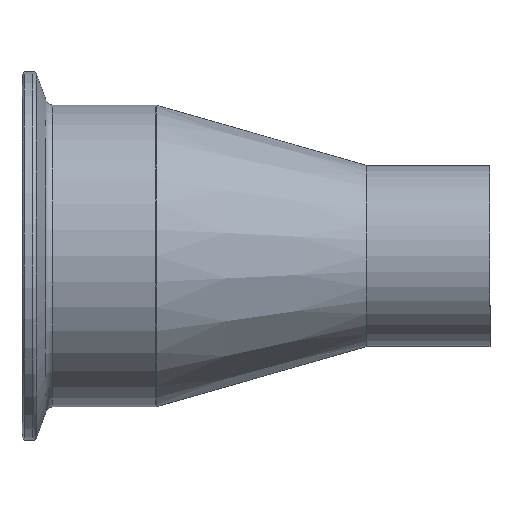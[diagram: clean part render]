
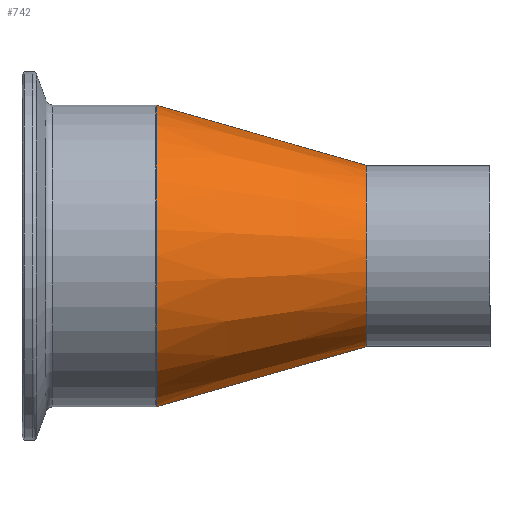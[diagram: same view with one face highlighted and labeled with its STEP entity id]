
A CAD part, top view. The second image highlights one B-rep face of the part: STEP entity #742.
In plain terms, the highlighted conical face has half-angle 16 degrees and reference radius 19.05 mm.
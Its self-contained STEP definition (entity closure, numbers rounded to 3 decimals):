
#7 = DIRECTION ( 'NONE',  ( 0., 1., 0. ) ) ;
#22 = ORIENTED_EDGE ( 'NONE', *, *, #332, .T. ) ;
#34 = EDGE_CURVE ( 'NONE', #367, #433, #376, .T. ) ;
#79 = CARTESIAN_POINT ( 'NONE',  ( -26., 0., 0. ) ) ;
#134 = DIRECTION ( 'NONE',  ( -1., 0., 0. ) ) ;
#143 = DIRECTION ( 'NONE',  ( -0.961, 0.276, 0. ) ) ;
#161 = DIRECTION ( 'NONE',  ( 1., 0., 0. ) ) ;
#188 = CONICAL_SURFACE ( 'NONE', #925, 19.05, 0.279 ) ;
#215 = VERTEX_POINT ( 'NONE', #794 ) ;
#218 = FACE_OUTER_BOUND ( 'NONE', #321, .T. ) ;
#254 = AXIS2_PLACEMENT_3D ( 'NONE', #530, #535, #545 ) ;
#269 = VERTEX_POINT ( 'NONE', #806 ) ;
#321 = EDGE_LOOP ( 'NONE', ( #627, #982, #22, #485 ) ) ;
#332 = EDGE_CURVE ( 'NONE', #433, #269, #601, .T. ) ;
#336 = CARTESIAN_POINT ( 'NONE',  ( -26., 19.05, 0. ) ) ;
#367 = VERTEX_POINT ( 'NONE', #336 ) ;
#376 = LINE ( 'NONE', #1078, #1097 ) ;
#422 = CARTESIAN_POINT ( 'NONE',  ( -70.182, 31.719, 0. ) ) ;
#433 = VERTEX_POINT ( 'NONE', #422 ) ;
#476 = CIRCLE ( 'NONE', #254, 19.05 ) ;
#485 = ORIENTED_EDGE ( 'NONE', *, *, #1048, .F. ) ;
#530 = CARTESIAN_POINT ( 'NONE',  ( -26., 0., 0. ) ) ;
#535 = DIRECTION ( 'NONE',  ( 1., 0., 0. ) ) ;
#545 = DIRECTION ( 'NONE',  ( 0., 1., 0. ) ) ;
#601 = CIRCLE ( 'NONE', #948, 31.719 ) ;
#627 = ORIENTED_EDGE ( 'NONE', *, *, #931, .F. ) ;
#715 = VECTOR ( 'NONE', #1039, 1000. ) ;
#742 = ADVANCED_FACE ( 'NONE', ( #218 ), #188, .T. ) ;
#794 = CARTESIAN_POINT ( 'NONE',  ( -26., -19.05, 0. ) ) ;
#806 = CARTESIAN_POINT ( 'NONE',  ( -70.182, -31.719, 0. ) ) ;
#862 = DIRECTION ( 'NONE',  ( 0., -1., 0. ) ) ;
#879 = LINE ( 'NONE', #1030, #715 ) ;
#925 = AXIS2_PLACEMENT_3D ( 'NONE', #79, #134, #862 ) ;
#931 = EDGE_CURVE ( 'NONE', #367, #215, #476, .T. ) ;
#948 = AXIS2_PLACEMENT_3D ( 'NONE', #952, #161, #7 ) ;
#952 = CARTESIAN_POINT ( 'NONE',  ( -70.182, 0., 0. ) ) ;
#982 = ORIENTED_EDGE ( 'NONE', *, *, #34, .T. ) ;
#1030 = CARTESIAN_POINT ( 'NONE',  ( -26., -19.05, 0. ) ) ;
#1039 = DIRECTION ( 'NONE',  ( -0.961, -0.276, 0. ) ) ;
#1048 = EDGE_CURVE ( 'NONE', #215, #269, #879, .T. ) ;
#1078 = CARTESIAN_POINT ( 'NONE',  ( -26., 19.05, 0. ) ) ;
#1097 = VECTOR ( 'NONE', #143, 1000. ) ;
